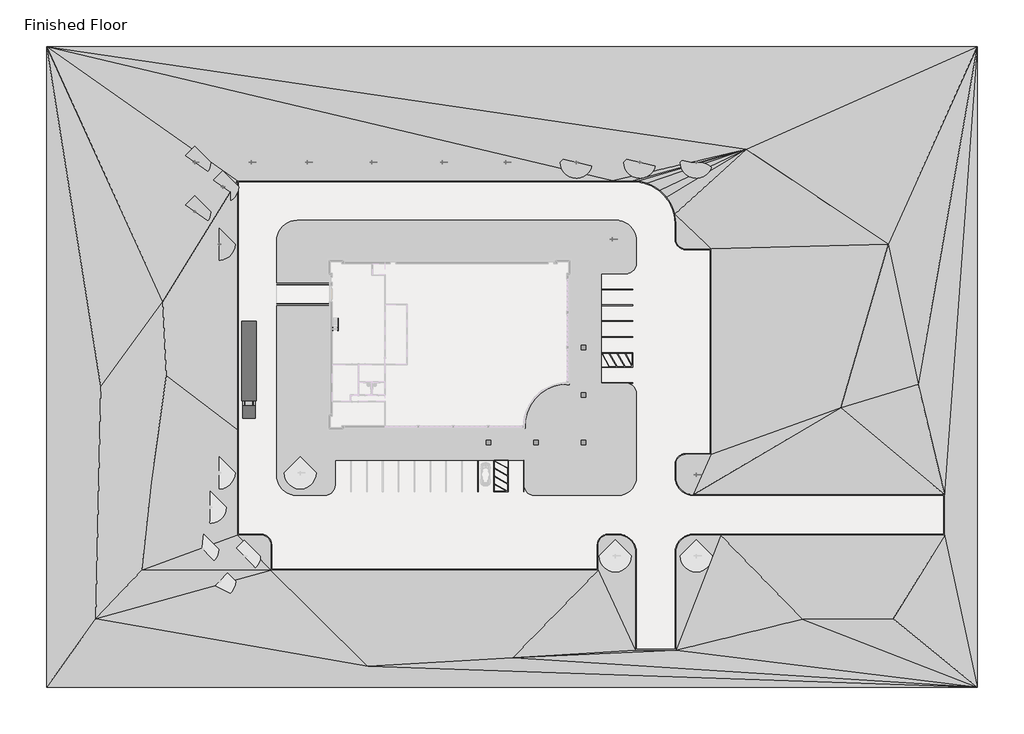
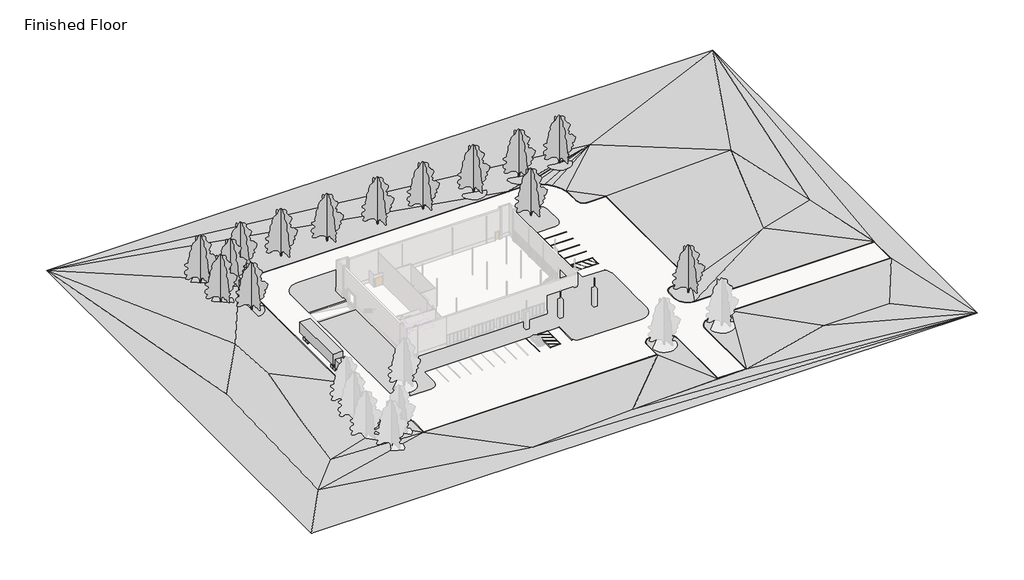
# One storey, part 7 of 7: 14 geographic elements, 12 proxies, 2 members.
"""IFC4 building model written with IfcOpenShell, lengths in millimetres."""

from ifc_helpers import new_model, si_unit, frame, origin, place, context, project, spatial, polyline, outline, extrude, triangles, transform, mapped, element, save
from components import parking_space_ada_44d2459f, parking_space_ada_2abbe88e, parking_space_9_x_18_90_deg_9fe051ab, parking_space_9_x_18_90_deg_b8b21359, semi_truck_semi_truck_f452f70d, rpc_tree_deciduous_lombardy_poplar_40_01077960

model = new_model("IFC4")

# Units and contexts
model_context = context("Model", 3, world=origin())
ifc_project = project(units=[si_unit("LENGTHUNIT", "METRE", prefix="MILLI")], contexts=[model_context])

# Site, building, storey
site = spatial("IfcSite", under=ifc_project)
building = spatial("IfcBuilding", under=site)
storey = spatial("IfcBuildingStorey", under=building, Name="Finished Floor", Elevation=0.0)

# Proxies
placement = place(None, origin())
element("IfcBuildingElementProxy", 1, Name="Building Element Proxy", at=placement, inside=storey, context=model_context, shape_type="Tessellation", body=[
    triangles([(89491.7282227, 51524.5340698, 0.0), (-71468.3585815, 51524.5340698, 0.0), (-71468.3585815, -59233.5425903, 0.0), (89491.7282227, -59233.5425903, 0.0), (43468.1281494, -19005.9189697, 0.0), (39048.5281494, -19005.9189697, 0.0), (38675.4927795, -19047.9501251, 0.0), (38321.1655701, -19171.9344177, 0.0), (38003.3082275, -19371.6559479, 0.0), (37737.8639648, -19637.1013733, 0.0), (37538.1435974, -19954.9563904, 0.0), (37414.1581421, -20309.2835999, 0.0), (37372.1281494, -20682.3189697, 0.0), (37372.1281494, -22924.0542297, 0.0), (37417.9230286, -23447.5129761, 0.0), (37553.9217041, -23955.0657166, 0.0), (37775.9895447, -24431.2924622, 0.0), (38077.3804504, -24861.7220032, 0.0), (38448.9368408, -25233.2783936, 0.0), (38879.3663818, -25534.6669739, 0.0), (39355.5931274, -25756.7371399, 0.0), (39863.1481934, -25892.73349, 0.0), (40386.6046143, -25938.5306946, 0.0), (83820.6046143, -25938.5306946, 0.0), (83820.6046143, -32948.9306946, 0.0), (45127.0268921, -32948.9306946, 0.0), (40386.6046143, -32948.9306946, 0.0), (39863.1481934, -32994.7278992, 0.0), (39355.5931274, -33130.7265747, 0.0), (38879.3663818, -33352.7944153, 0.0), (38448.9368408, -33654.185321, 0.0), (38077.3804504, -34025.739386, 0.0), (37775.9895447, -34456.168927, 0.0), (37553.9217041, -34932.3956726, 0.0), (37417.9230286, -35439.9507385, 0.0), (37372.1281494, -35963.4094849, 0.0), (37372.1281494, -52869.0659546, 0.0), (30361.7281494, -52869.0659546, 0.0), (30361.7281494, -35963.4094849, 0.0), (30315.9309448, -35439.9507385, 0.0), (30179.9322693, -34932.3956726, 0.0), (29957.8644287, -34456.168927, 0.0), (29656.4735229, -34025.739386, 0.0), (29284.919458, -33654.185321, 0.0), (28854.4875916, -33352.7944153, 0.0), (28378.2608459, -33130.7265747, 0.0), (27870.7081055, -32994.7278992, 0.0), (27347.2493591, -32948.9306946, 0.0), (25594.6051758, -32948.9306946, 0.0), (25221.5698059, -32990.9630127, 0.0), (24867.2425964, -33114.9461426, 0.0), (24549.3875793, -33314.6688354, 0.0), (24283.9433167, -33580.1130981, 0.0), (24084.2206238, -33897.9681152, 0.0), (23960.2351685, -34252.2976501, 0.0), (23918.2051758, -34625.3306946, 0.0), (23918.2051758, -39044.93302, 0.0), (-32692.1859009, -39044.93302, 0.0), (-32692.1859009, -34625.3306946, 0.0), (-32734.2158936, -34252.2976501, 0.0), (-32858.2013489, -33897.9681152, 0.0), (-33057.9240417, -33580.1130981, 0.0), (-33323.365979, -33314.6688354, 0.0), (-33641.2233215, -33114.9461426, 0.0), (-33995.550531, -32990.9630127, 0.0), (-34368.5859009, -32948.9306946, 0.0), (-38482.4952576, -32948.9306946, 0.0), (-38482.4952576, -14776.2364471, 0.0), (-38482.4952576, -4392.0205788, 0.0), (-38482.4952576, 14671.8649109, 0.0), (-38482.4952576, 17447.5757172, 0.0), (-38482.4952576, 23900.0318665, 0.0), (-38482.4952576, 28315.8693054, 0.0), (26449.0204651, 28315.8693054, 0.0), (29904.5281494, 28315.8693054, 0.0), (30740.6329285, 28268.914032, 0.0), (30978.0719238, 28228.5723083, 0.0), (31566.2243958, 28128.6411987, 0.0), (32370.9194641, 27896.8111633, 0.0), (33144.597821, 27576.3446777, 0.0), (33877.5298279, 27171.2670776, 0.0), (34560.4997681, 26686.6734009, 0.0), (35184.9174683, 26128.6586243, 0.0), (35742.9322449, 25504.2409241, 0.0), (36227.5259216, 24821.2709839, 0.0), (36632.6011963, 24088.3389771, 0.0), (36953.0700073, 23314.6606201, 0.0), (37184.9000427, 22509.9655518, 0.0), (37325.172876, 21684.3740845, 0.0), (37372.1281494, 20848.2693054, 0.0), (37372.1281494, 18217.7810303, 0.0), (37414.1581421, 17844.7468231, 0.0), (37538.1435974, 17490.4184509, 0.0), (37737.8639648, 17172.5634338, 0.0), (38003.3082275, 16907.1191711, 0.0), (38321.1655701, 16707.3964783, 0.0), (38675.4927795, 16583.4121857, 0.0), (39048.5281494, 16541.3810303, 0.0), (43468.1281494, 16541.3810303, 0.0), (-62923.0848267, -47446.9783081, 914.4), (-62074.4715088, -7331.9966492, 914.4), (-51345.3450073, 7411.9650238, 914.4), (-50761.3108887, -5405.335762, 914.4), (-53401.7450684, -23823.5760681, 914.4), (-55035.4779053, -39044.93302, 914.4), (49498.0019531, 33794.7302307, 609.6), (65819.2894409, -10908.8620422, 609.6), (79218.1692627, -6843.266597, 609.6), (74036.9831909, 17329.8933655, 609.6), (-15938.1725006, -55637.1574585, 304.8), (9174.5690643, -54152.3178589, 304.8), (59166.9931641, -47487.7479126, 304.8), (74941.6954102, -47420.2590088, 304.8)], [[100, 58, 105], [110, 100, 3], [100, 105, 104], [3, 100, 101], [111, 58, 110], [4, 111, 110], [57, 58, 111], [111, 38, 57], [110, 58, 100], [111, 37, 38], [67, 105, 58], [63, 61, 62], [60, 63, 64], [61, 63, 60], [60, 64, 59], [59, 67, 58], [57, 39, 56], [64, 65, 59], [42, 48, 39], [55, 56, 49], [42, 43, 48], [39, 41, 42], [40, 41, 39], [48, 56, 39], [57, 38, 39], [52, 50, 51], [53, 50, 52], [48, 44, 45], [46, 48, 45], [49, 53, 54], [54, 55, 49], [48, 43, 44], [4, 110, 3], [101, 104, 103], [104, 101, 100], [103, 104, 68], [101, 103, 102], [59, 66, 67], [66, 59, 65], [67, 68, 104], [104, 105, 67], [103, 68, 69], [2, 102, 73], [102, 2, 101], [73, 102, 72], [2, 73, 74], [70, 71, 102], [72, 102, 71], [102, 69, 70], [102, 103, 69], [101, 2, 3], [53, 49, 50], [56, 48, 49], [81, 82, 106], [83, 106, 82], [106, 74, 75], [2, 74, 106], [79, 80, 106], [76, 77, 106], [79, 106, 78], [75, 76, 106], [81, 106, 80], [47, 48, 46], [106, 77, 78], [28, 34, 35], [36, 27, 35], [30, 32, 33], [30, 31, 32], [29, 33, 34], [36, 37, 26], [13, 14, 6], [16, 14, 15], [19, 14, 18], [17, 18, 14], [16, 17, 14], [20, 14, 19], [33, 29, 30], [29, 34, 28], [112, 4, 113], [4, 112, 37], [113, 25, 112], [25, 113, 4], [4, 24, 25], [36, 26, 27], [37, 112, 26], [23, 20, 21], [23, 21, 22], [28, 35, 27], [14, 23, 6], [112, 25, 26], [23, 14, 20], [4, 1, 24], [37, 111, 4], [23, 24, 107], [96, 91, 92], [10, 11, 12], [92, 93, 95], [12, 9, 10], [90, 91, 98], [85, 86, 106], [84, 85, 106], [99, 89, 90], [87, 88, 106], [89, 99, 88], [86, 87, 106], [93, 94, 95], [13, 9, 12], [8, 9, 13], [13, 7, 8], [99, 5, 107], [5, 23, 107], [24, 108, 107], [6, 7, 13], [109, 107, 108], [98, 91, 97], [96, 97, 91], [99, 90, 98], [99, 109, 106], [109, 99, 107], [106, 1, 2], [1, 106, 109], [109, 108, 1], [106, 88, 99], [96, 92, 95], [108, 24, 1], [23, 5, 6], [84, 106, 83]], closed=False),
])
element("IfcBuildingElementProxy", 2, Name="Building Element Proxy", at=placement, inside=storey, context=model_context, shape_type="Tessellation", body=[
    triangles([(43468.1281494, -19005.9189697, 0.0), (43468.1281494, 16541.3810303, 0.0), (39048.5281494, 16541.3810303, 0.0), (38675.4927795, 16583.4121857, 0.0), (38321.1655701, 16707.3964783, 0.0), (38003.3082275, 16907.1191711, 0.0), (37737.8639648, 17172.5634338, 0.0), (37538.1435974, 17490.4184509, 0.0), (37414.1581421, 17844.7468231, 0.0), (37372.1281494, 18217.7810303, 0.0), (37372.1281494, 20848.2693054, 0.0), (37325.172876, 21684.3740845, 0.0), (37184.9000427, 22509.9655518, 0.0), (36953.0700073, 23314.6606201, 0.0), (36632.6011963, 24088.3389771, 0.0), (36227.5259216, 24821.2709839, 0.0), (35742.9322449, 25504.2409241, 0.0), (35184.9174683, 26128.6586243, 0.0), (34560.4997681, 26686.6734009, 0.0), (33877.5298279, 27171.2670776, 0.0), (33144.597821, 27576.3446777, 0.0), (32370.9194641, 27896.8111633, 0.0), (31566.2243958, 28128.6411987, 0.0), (30978.0719238, 28228.5723083, 0.0), (30740.6329285, 28268.914032, 0.0), (29904.5281494, 28315.8693054, 0.0), (26449.0204651, 28315.8693054, 0.0), (-38482.4952576, 28315.8693054, 0.0), (-38482.4952576, 23900.0318665, 0.0), (-38482.4952576, 17447.5757172, 0.0), (-38482.4952576, 14671.8649109, 0.0), (-38482.4952576, -4392.0205788, 0.0), (-38482.4952576, -14776.2364471, 0.0), (-38482.4952576, -32948.9306946, 0.0), (-34368.5859009, -32948.9306946, 0.0), (-33995.550531, -32990.9630127, 0.0), (-33641.2233215, -33114.9461426, 0.0), (-33323.365979, -33314.6688354, 0.0), (-33057.9240417, -33580.1130981, 0.0), (-32858.2013489, -33897.9681152, 0.0), (-32734.2158936, -34252.2976501, 0.0), (-32692.1859009, -34625.3306946, 0.0), (-32692.1859009, -39044.93302, 0.0), (23918.2051758, -39044.93302, 0.0), (23918.2051758, -34625.3306946, 0.0), (23960.2351685, -34252.2976501, 0.0), (24084.2206238, -33897.9681152, 0.0), (24283.9433167, -33580.1130981, 0.0), (24549.3875793, -33314.6688354, 0.0), (24867.2425964, -33114.9461426, 0.0), (25221.5698059, -32990.9630127, 0.0), (25594.6051758, -32948.9306946, 0.0), (27347.2493591, -32948.9306946, 0.0), (27870.7081055, -32994.7278992, 0.0), (28378.2608459, -33130.7265747, 0.0), (28854.4875916, -33352.7944153, 0.0), (29284.919458, -33654.185321, 0.0), (29656.4735229, -34025.739386, 0.0), (29957.8644287, -34456.168927, 0.0), (30179.9322693, -34932.3956726, 0.0), (30315.9309448, -35439.9507385, 0.0), (30361.7281494, -35963.4094849, 0.0), (30361.7281494, -52869.0659546, 0.0), (37372.1281494, -52869.0659546, 0.0), (37372.1281494, -35963.4094849, 0.0), (37417.9230286, -35439.9507385, 0.0), (37553.9217041, -34932.3956726, 0.0), (37775.9895447, -34456.168927, 0.0), (38077.3804504, -34025.739386, 0.0), (38448.9368408, -33654.185321, 0.0), (38879.3663818, -33352.7944153, 0.0), (39355.5931274, -33130.7265747, 0.0), (39863.1481934, -32994.7278992, 0.0), (40386.6046143, -32948.9306946, 0.0), (45127.0268921, -32948.9306946, 0.0), (83820.6046143, -32948.9306946, 0.0), (83820.6046143, -25938.5306946, 0.0), (40386.6046143, -25938.5306946, 0.0), (39863.1481934, -25892.73349, 0.0), (39355.5931274, -25756.7371399, 0.0), (38879.3663818, -25534.6669739, 0.0), (38448.9368408, -25233.2783936, 0.0), (38077.3804504, -24861.7220032, 0.0), (37775.9895447, -24431.2924622, 0.0), (37553.9217041, -23955.0657166, 0.0), (37417.9230286, -23447.5129761, 0.0), (37372.1281494, -22924.0542297, 0.0), (37372.1281494, -20682.3189697, 0.0), (37414.1581421, -20309.2835999, 0.0), (37538.1435974, -19954.9563904, 0.0), (37737.8639648, -19637.1013733, 0.0), (38003.3082275, -19371.6559479, 0.0), (38321.1655701, -19171.9344177, 0.0), (38675.4927795, -19047.9501251, 0.0), (39048.5281494, -19005.9189697, 0.0), (40386.6046143, -26090.9306946, 0.0), (40489.6587891, -26090.9306946, 0.0), (82979.4373535, -26090.9306946, 0.0), (83668.2046143, -26090.9306946, 0.0), (83668.2046143, -32796.5306946, 0.0), (45968.189502, -32796.5306946, 0.0), (45023.9727173, -32796.5306946, 0.0), (40386.6046143, -32796.5306946, 0.0), (39874.5242432, -32841.3326111, 0.0), (39863.1481934, -32842.3278992, 0.0), (39836.6800415, -32844.6440369, 0.0), (39366.825, -32970.5410034, 0.0), (39355.5931274, -32973.5501221, 0.0), (39303.4707275, -32987.5167114, 0.0), (38890.1843262, -33180.2351807, 0.0), (38879.3663818, -33185.2790588, 0.0), (38803.1663818, -33220.8117737, 0.0), (38459.1408691, -33461.7017212, 0.0), (38448.9368408, -33468.8477966, 0.0), (38350.9753784, -33537.4389587, 0.0), (38224.7575012, -33663.6591614, 0.0), (37960.6364136, -33927.780249, 0.0), (37892.042926, -34025.739386, 0.0), (37884.899176, -34035.9434143, 0.0), (37644.0092285, -34379.968927, 0.0), (37608.4765137, -34456.168927, 0.0), (37603.4303101, -34466.9891968, 0.0), (37410.7141663, -34880.2732727, 0.0), (37396.7475769, -34932.3956726, 0.0), (37393.7361328, -34943.6298706, 0.0), (37267.8391663, -35413.4872375, 0.0), (37265.5230286, -35439.9507385, 0.0), (37264.5277405, -35451.3291138, 0.0), (37219.7281494, -35963.4094849, 0.0), (37219.7281494, -36330.921936, 0.0), (37219.7281494, -52716.6659546, 0.0), (30514.1281494, -52716.6659546, 0.0), (30514.1281494, -52501.5535034, 0.0), (30514.1281494, -35963.4094849, 0.0), (30513.1444885, -35952.1752869, 0.0), (30468.3309448, -35439.9507385, 0.0), (30467.400769, -35429.3281311, 0.0), (30466.0148071, -35413.4872375, 0.0), (30337.1087219, -34932.3956726, 0.0), (30334.5112061, -34922.7055664, 0.0), (30323.1421326, -34880.2732727, 0.0), (30125.3797852, -34456.168927, 0.0), (30121.3381714, -34447.5043396, 0.0), (30089.8470703, -34379.968927, 0.0), (29841.8110474, -34025.739386, 0.0), (29836.485791, -34018.1328735, 0.0), (29773.2175598, -33927.780249, 0.0), (29763.8274353, -33918.3877991, 0.0), (29396.8079773, -33551.3683411, 0.0), (29392.2710449, -33546.8314087, 0.0), (29382.878595, -33537.4389587, 0.0), (28968.8341003, -33247.5217712, 0.0), (28963.4972168, -33243.78479, 0.0), (28930.6875916, -33220.8117737, 0.0), (28498.6023376, -33019.3263977, 0.0), (28492.5050354, -33016.4847107, 0.0), (28430.3855713, -32987.5167114, 0.0), (28001.5257019, -32872.6051208, 0.0), (27994.667981, -32870.7680237, 0.0), (27897.1716064, -32844.6440369, 0.0), (27495.0728943, -32809.4647888, 0.0), (27487.3896423, -32808.7927368, 0.0), (27347.2493591, -32796.5306946, 0.0), (25773.650061, -32796.5306946, 0.0), (25740.9288025, -32796.5306946, 0.0), (25594.6051758, -32796.5306946, 0.0), (25390.8408691, -32819.4897583, 0.0), (25385.8946594, -32820.0478638, 0.0), (25187.6579224, -32842.3837097, 0.0), (25106.460553, -32870.795929, 0.0), (25100.216748, -32872.9795166, 0.0), (24801.1187256, -32977.6405701, 0.0), (24746.2895142, -33012.0919556, 0.0), (24454.3677979, -33195.5179687, 0.0), (24434.2666992, -33215.6190674, 0.0), (24169.4735596, -33480.4098816, 0.0), (24164.79245, -33485.0933167, 0.0), (23969.122998, -33796.4975647, 0.0), (23946.9127258, -33831.8442444, 0.0), (23923.7746033, -33897.9681152, 0.0), (23811.6558655, -34218.3857666, 0.0), (23807.9421387, -34251.3465454, 0.0), (23807.8351685, -34252.2976501, 0.0), (23765.9167969, -34624.3284302, 0.0), (23765.8051758, -34625.3306946, 0.0), (23765.8051758, -38892.5306946, 0.0), (21966.1220032, -38892.5306946, 0.0), (-32539.7859009, -38892.5306946, 0.0), (-32539.7859009, -34637.2299683, 0.0), (-32539.7859009, -34625.3306946, 0.0), (-32581.701947, -34253.30224, 0.0), (-32581.8158936, -34252.2976501, 0.0), (-32585.6365906, -34218.3857666, 0.0), (-32697.404187, -33898.9703796, 0.0), (-32697.7553284, -33897.9681152, 0.0), (-32720.8934509, -33831.8442444, 0.0), (-32806.1882446, -33696.0990417, 0.0), (-32938.7708496, -33485.0933167, 0.0), (-33013.110498, -33410.7536682, 0.0), (-33144.7582764, -33279.1082153, 0.0), (-33228.3461975, -33195.5179687, 0.0), (-33383.6902039, -33097.9099731, 0.0), (-33575.0994507, -32977.6405701, 0.0), (-33687.8902405, -32938.1732117, 0.0), (-33961.6386475, -32842.3837097, 0.0), (-34034.1644531, -32834.2121155, 0.0), (-34368.5859009, -32796.5306946, 0.0), (-34403.0861206, -32796.5306946, 0.0), (-38330.0952576, -32796.5306946, 0.0), (-38330.0952576, -15449.4453552, 0.0), (-38330.0952576, -15394.9044983, 0.0), (-38330.0952576, -15353.5267914, 0.0), (-38330.0952576, -15323.8599976, 0.0), (-38330.0952576, -15304.5204803, 0.0), (-38330.0952576, -14570.8373566, 0.0), (-38330.0952576, -4284.5230705, 0.0), (-38330.0952576, -4138.6438934, 0.0), (-38330.0952576, 14501.5997223, 0.0), (-38330.0952576, 14576.1068024, 0.0), (-38330.0952576, 17290.1341644, 0.0), (-38330.0952576, 23599.203717, 0.0), (-38330.0952576, 23772.4024475, 0.0), (-38330.0952576, 28146.6075439, 0.0), (-38330.0952576, 28163.4693054, 0.0), (26035.0503845, 28163.4693054, 0.0), (26100.1929199, 28163.4693054, 0.0), (26605.1318665, 28163.4693054, 0.0), (26608.6107239, 28163.4693054, 0.0), (26613.8708679, 28163.4693054, 0.0), (29904.5281494, 28163.4693054, 0.0), (30022.1116699, 28156.8650574, 0.0), (30065.9950378, 28154.4000916, 0.0), (30723.5688538, 28117.472113, 0.0), (31134.8693298, 28047.590332, 0.0), (31157.2981934, 28043.7789368, 0.0), (31183.4663635, 28039.3326965, 0.0), (31214.6063232, 28034.0423218, 0.0), (31252.5574951, 28027.5938782, 0.0), (31300.1708679, 28019.5036743, 0.0), (31362.1484802, 28008.9740845, 0.0), (31446.824707, 27994.5865906, 0.0), (31532.3125122, 27980.0618958, 0.0), (31602.3128906, 27959.8956848, 0.0), (32138.4034241, 27805.4492981, 0.0), (32320.5853271, 27752.9641296, 0.0), (32602.037915, 27636.3828735, 0.0), (33078.4739502, 27439.0367798, 0.0), (33796.4487305, 27042.2261169, 0.0), (33892.1010315, 26974.3558411, 0.0), (34465.4799866, 26567.5225342, 0.0), (34667.6257874, 26386.8730957, 0.0), (35077.1542786, 26020.8954346, 0.0), (35325.6600403, 25742.8170593, 0.0), (35623.7813782, 25409.2211426, 0.0), (35881.6726135, 25045.7549561, 0.0), (36098.4849609, 24740.1898865, 0.0), (36340.5748352, 24302.1608093, 0.0), (36495.2956238, 24022.2151062, 0.0), (36703.2829285, 23520.0899414, 0.0), (36809.2229736, 23264.3264832, 0.0), (36969.3318054, 22708.5766846, 0.0), (37036.3207397, 22476.0536682, 0.0), (37138.0517395, 21877.3064941, 0.0), (37173.730957, 21667.3123352, 0.0), (37209.163678, 21036.3694519, 0.0), (37210.6589355, 21009.7361938, 0.0), (37219.7281494, 20848.2693054, 0.0), (37219.7281494, 18423.8649628, 0.0), (37219.7281494, 18358.670105, 0.0), (37219.7281494, 18217.7810303, 0.0), (37243.3825195, 18007.8275665, 0.0), (37265.5788391, 17810.8349396, 0.0), (37294.4561462, 17728.3120697, 0.0), (37386.9598022, 17463.9468109, 0.0), (37400.8356995, 17424.2945801, 0.0), (37576.1994141, 17145.2058014, 0.0), (37618.7130981, 17077.5424896, 0.0), (37737.8639648, 16958.3916229, 0.0), (37908.288446, 16787.9683044, 0.0), (38002.0152832, 16729.0753876, 0.0), (38003.3082275, 16728.2626465, 0.0), (38255.0416992, 16570.089743, 0.0), (38319.7563538, 16547.4446136, 0.0), (38321.1655701, 16546.9516205, 0.0), (38322.7608215, 16546.393515, 0.0), (38641.580896, 16434.8328827, 0.0), (38675.4927795, 16431.0121857, 0.0), (38677.0926819, 16430.8319641, 0.0), (39048.5281494, 16388.9810303, 0.0), (39067.4758301, 16388.9810303, 0.0), (43315.7281494, 16388.9810303, 0.0), (43315.7281494, -17780.1496033, 0.0), (43315.7281494, -18853.5189697, 0.0), (39048.5281494, -18853.5189697, 0.0), (39046.9328979, -18853.6980286, 0.0), (38675.4927795, -18895.5501251, 0.0), (38673.9835693, -18895.7198822, 0.0), (38641.580896, -18899.3708221, 0.0), (38321.1655701, -19011.4895599, 0.0), (38255.0416992, -19034.6265198, 0.0), (38004.8941772, -19191.8052979, 0.0), (38003.3082275, -19192.8005859, 0.0), (37908.288446, -19252.5050812, 0.0), (37739.431311, -19421.3622162, 0.0), (37737.8639648, -19422.9295624, 0.0), (37618.7130981, -19542.0815918, 0.0), (37598.0027344, -19575.0423706, 0.0), (37400.8356995, -19888.8325195, 0.0), (37399.5450806, -19892.5183411, 0.0), (37286.0985168, -20216.7287842, 0.0), (37265.5788391, -20275.3717163, 0.0), (37241.9546997, -20485.0379883, 0.0), (37241.5268188, -20488.8400818, 0.0), (37219.7281494, -20682.3189697, 0.0), (37219.7281494, -20836.7025696, 0.0), (37219.7281494, -20841.0464905, 0.0), (37219.7281494, -22924.0542297, 0.0), (37230.2902954, -23044.7840698, 0.0), (37231.9878662, -23064.1921875, 0.0), (37267.8391663, -23473.9764771, 0.0), (37292.4655701, -23565.8801697, 0.0), (37293.9631531, -23571.4728516, 0.0), (37410.7141663, -24007.1904419, 0.0), (37437.2125488, -24064.0195312, 0.0), (37439.6798401, -24069.3075806, 0.0), (37644.0092285, -24507.4924622, 0.0), (37663.5405945, -24535.3861084, 0.0), (37666.9822449, -24540.3020874, 0.0), (37960.6364136, -24959.6834656, 0.0), (37965.591925, -24964.6413025, 0.0), (37970.0288635, -24969.0759155, 0.0), (38337.0459961, -25336.0930481, 0.0), (38341.5829285, -25340.6299805, 0.0), (38350.9753784, -25350.0224304, 0.0), (38448.9368408, -25418.615918, 0.0), (38803.1663818, -25666.6496155, 0.0), (38870.699469, -25698.1407166, 0.0), (38879.3663818, -25702.1823303, 0.0), (39303.4707275, -25899.9446777, 0.0), (39345.9006958, -25911.3160767, 0.0), (39355.5931274, -25913.9112671, 0.0), (39836.6800415, -26042.8196777, 0.0), (39852.5255859, -26044.2056396, 0.0), (39863.1481934, -26045.13349, 0.0), (40375.3727417, -26089.9493591, 0.0), (-22521.0718506, 7009.9285172, 0.0), (-31624.4952576, 7009.9285172, 0.0), (-31624.4952576, 445.3687818, 0.0), (-31624.4952576, -5533.2413269, 0.0), (-31624.4952576, -23117.5447449, 0.0), (-31498.079718, -23654.7514893, 0.0), (-31288.9110901, -24165.4598511, 0.0), (-31002.1774292, -24637.0078125, 0.0), (-30765.3872314, -24915.8954407, 0.0), (-30644.9829529, -25057.7053894, 0.0), (-30592.109436, -25103.0816895, 0.0), (-30226.18526, -25417.1229858, 0.0), (-29756.1651123, -25706.3518433, 0.0), (-29246.5729614, -25918.2249573, 0.0), (-28710.0429199, -26047.4845093, 0.0), (-28159.8718506, -26090.9306946, 0.0), (-23395.7859009, -26090.9306946, 0.0), (-22988.8386475, -26045.0800049, 0.0), (-22602.2994507, -25909.8231445, 0.0), (-22255.5461975, -25691.9457458, 0.0), (-21965.9708496, -25402.3703979, 0.0), (-21748.0934509, -25055.6171448, 0.0), (-21612.8365906, -24669.077948, 0.0), (-21566.9859009, -24262.1306946, 0.0), (-21566.9859009, -19994.9306946, 0.0), (8313.9152023, -19994.9306946, 0.0), (8686.6657059, -19994.9306946, 0.0), (9068.5226303, -19994.9306946, 0.0), (9438.6721298, -19994.9306946, 0.0), (11084.7152618, -19994.9306946, 0.0), (11084.7152618, -21394.6778137, 0.0), (11084.7152618, -21729.6620178, 0.0), (11084.7152618, -22083.6241333, 0.0), (11084.7152618, -22437.656012, 0.0), (11084.7152618, -24262.1306946, 0.0), (11130.5671143, -24669.077948, 0.0), (11265.8228119, -25055.6171448, 0.0), (11483.7013733, -25402.3703979, 0.0), (11773.2767212, -25691.9457458, 0.0), (12120.0276489, -25909.8231445, 0.0), (12506.5680084, -26045.0800049, 0.0), (12913.5152618, -26090.9306946, 0.0), (15228.6472046, -26090.9306946, 0.0), (15685.5414093, -26090.9306946, 0.0), (16153.5977234, -26090.9306946, 0.0), (16607.3037506, -26090.9306946, 0.0), (27347.2493591, -26090.9306946, 0.0), (27897.1716064, -26042.8196777, 0.0), (28430.3855713, -25899.9446777, 0.0), (28930.6875916, -25666.6496155, 0.0), (29382.878595, -25350.0224304, 0.0), (29773.2175598, -24959.6834656, 0.0), (30089.8470703, -24507.4924622, 0.0), (30323.1421326, -24007.1904419, 0.0), (30466.0148071, -23473.9764771, 0.0), (30514.1281494, -22924.0542297, 0.0), (30514.1281494, -16790.6658142, 0.0), (30514.1281494, -16431.8923645, 0.0), (30514.1281494, -8490.3189697, 0.0), (30468.2751343, -8083.3722977, 0.0), (30333.0182739, -7696.8319382, 0.0), (30115.1408752, -7350.0804291, 0.0), (29825.5655273, -7060.5056625, 0.0), (29478.8145996, -6842.6271011, 0.0), (29092.2730774, -6707.3708221, 0.0), (28685.3281494, -6661.5189697, 0.0), (24418.1281494, -6661.5189697, 0.0), (24418.1281494, 12274.1810303, 0.0), (28685.3281494, 12274.1810303, 0.0), (29092.2730774, 12320.0328827, 0.0), (29478.8145996, 12455.289743, 0.0), (29825.5655273, 12673.1683044, 0.0), (30115.1408752, 12962.7424896, 0.0), (30333.0182739, 13309.4945801, 0.0), (30468.2751343, 13696.0349396, 0.0), (30514.1281494, 14102.9810303, 0.0), (30514.1281494, 15950.1613037, 0.0), (30514.1281494, 16260.548172, 0.0), (30514.1281494, 17952.6681427, 0.0), (30470.972644, 18501.0032776, 0.0), (30342.5711792, 19035.8345856, 0.0), (30132.0840271, 19543.9954285, 0.0), (29844.6945923, 20012.9737793, 0.0), (29487.4768616, 20431.220343, 0.0), (29069.2326233, 20788.4357483, 0.0), (28600.2542725, 21075.8251831, 0.0), (28092.0945923, 21286.3123352, 0.0), (27557.2621216, 21414.7138, 0.0), (27008.9281494, 21457.8693054, 0.0), (10751.8320923, 21457.8693054, 0.0), (7820.3371902, 21457.8693054, 0.0), (-28159.8718506, 21457.8693054, 0.0), (-28710.0429199, 21414.4231201, 0.0), (-29246.5729614, 21285.1612427, 0.0), (-29756.1651123, 21073.2904541, 0.0), (-30226.18526, 20784.0615967, 0.0), (-30644.9829529, 20424.6416748, 0.0), (-31000.4496277, 20005.9788574, 0.0), (-31002.1774292, 20003.9440979, 0.0), (-31288.9110901, 19532.3984619, 0.0), (-31498.079718, 19021.6889374, 0.0), (-31624.4952576, 18484.4810303, 0.0), (-31624.4952576, 18156.6975494, 0.0), (-31624.4952576, 10362.7290985, 0.0), (-22521.0718506, 10362.7290985, 0.0), (-22521.0718506, 10532.9012695, 0.0), (-22521.0718506, 10588.4118347, 0.0), (-22521.0718506, 11856.6681427, 0.0), (-22825.8718506, 11856.6681427, 0.0), (-22825.8718506, 14752.2681427, 0.0), (-19930.2718506, 14752.2681427, 0.0), (-19930.2718506, 14447.4681427, 0.0), (-11222.3161652, 14447.4681427, 0.0), (-5294.182663, 14447.4681427, 0.0), (16340.9269867, 14447.4681427, 0.0), (16340.9269867, 14752.2681427, 0.0), (19236.5269867, 14752.2681427, 0.0), (19236.5269867, 14285.8966095, 0.0), (19236.5269867, 14041.7661621, 0.0), (19236.5269867, 11856.6681427, 0.0), (18931.7269867, 11856.6681427, 0.0), (18931.7269867, -6675.4733505, 0.0), (18097.4139587, -6671.306163, 0.0), (17267.9448212, -6761.1704453, 0.0), (16453.8828827, -6943.9214996, 0.0), (15665.5949524, -7217.2321426, 0.0), (14913.1234406, -7577.6211914, 0.0), (14206.0491577, -8020.4993912, 0.0), (13553.3773682, -8540.2258072, 0.0), (13299.7951721, -8793.8080032, 0.0), (13133.0425598, -8960.5606155, 0.0), (12963.4215179, -9130.1816574, 0.0), (12443.6951019, -9782.8528656, 0.0), (12000.8174835, -10489.9271484, 0.0), (11640.4278534, -11242.399823, 0.0), (11367.1177917, -12030.6865906, 0.0), (11184.366156, -12844.7485291, 0.0), (11094.5018738, -13674.2188293, 0.0), (11098.6690613, -14508.5318573, 0.0), (2986.9037292, -14508.5318573, 0.0), (2691.9551628, -14508.5318573, 0.0), (2387.6770786, -14508.5318573, 0.0), (2090.6561096, -14508.5318573, 0.0), (-19930.2718506, -14508.5318573, 0.0), (-19930.2718506, -14813.3318573, 0.0), (-22825.8718506, -14813.3318573, 0.0), (-22825.8718506, -11917.7318573, 0.0), (-22521.0718506, -11917.7318573, 0.0), (-22521.0718506, 6221.2923523, 0.0), (-22521.0718506, 6241.971904, 0.0), (-22521.0718506, 6736.0620941, 0.0), (-22521.0718506, 6866.5983124, 0.0)], [[202, 37, 38], [201, 38, 200], [202, 38, 201], [39, 198, 199], [198, 39, 197], [199, 200, 39], [39, 200, 38], [34, 35, 209], [206, 35, 36], [36, 205, 206], [207, 35, 206], [204, 36, 37], [205, 36, 204], [203, 204, 37], [203, 37, 202], [43, 188, 42], [188, 43, 187], [42, 191, 41], [190, 191, 42], [42, 188, 189], [189, 190, 42], [43, 44, 187], [196, 40, 195], [196, 197, 40], [40, 41, 194], [40, 197, 39], [193, 194, 41], [195, 40, 194], [41, 192, 193], [41, 191, 192], [208, 209, 35], [207, 208, 35], [354, 361, 350], [362, 363, 369], [361, 354, 360], [355, 356, 354], [360, 354, 359], [354, 356, 357], [353, 354, 352], [361, 362, 370], [358, 359, 354], [357, 358, 354], [364, 369, 363], [34, 209, 210], [385, 386, 382], [381, 386, 387], [380, 381, 387], [389, 377, 388], [388, 379, 387], [390, 376, 389], [366, 367, 369], [368, 369, 367], [366, 369, 365], [384, 385, 383], [383, 385, 382], [386, 381, 382], [376, 390, 391], [365, 369, 364], [369, 370, 362], [184, 45, 183], [184, 185, 45], [45, 185, 186], [46, 183, 45], [182, 46, 181], [182, 183, 46], [45, 186, 44], [186, 187, 44], [47, 179, 180], [47, 178, 179], [181, 46, 180], [48, 177, 178], [176, 177, 48], [48, 175, 176], [48, 178, 47], [46, 47, 180], [57, 58, 149], [149, 150, 57], [58, 148, 149], [57, 150, 151], [147, 58, 146], [148, 58, 147], [146, 58, 145], [145, 58, 59], [173, 174, 49], [174, 175, 49], [49, 175, 48], [152, 56, 57], [153, 154, 56], [152, 153, 56], [151, 152, 57], [154, 155, 56], [173, 50, 172], [50, 173, 49], [172, 50, 171], [170, 51, 169], [170, 171, 51], [51, 52, 167], [51, 171, 50], [164, 52, 53], [167, 168, 51], [166, 167, 52], [169, 51, 168], [166, 52, 165], [165, 52, 164], [164, 53, 163], [161, 53, 54], [158, 159, 54], [54, 55, 158], [160, 54, 159], [55, 155, 156], [155, 55, 56], [156, 157, 55], [55, 157, 158], [161, 162, 53], [161, 54, 160], [395, 396, 393], [392, 396, 397], [393, 394, 395], [396, 392, 393], [162, 163, 53], [391, 402, 484], [398, 392, 397], [133, 62, 63], [391, 392, 402], [33, 210, 211], [210, 33, 34], [33, 211, 212], [213, 214, 33], [214, 215, 33], [212, 213, 33], [32, 215, 216], [215, 32, 33], [216, 217, 32], [31, 32, 217], [348, 349, 494], [348, 494, 347], [491, 349, 350], [350, 370, 491], [492, 349, 491], [350, 351, 354], [490, 370, 488], [488, 489, 490], [490, 491, 370], [361, 370, 350], [497, 346, 347], [454, 449, 450], [494, 349, 492], [495, 496, 347], [496, 497, 347], [494, 495, 347], [492, 493, 494], [354, 351, 352], [454, 450, 451], [30, 31, 220], [220, 31, 219], [218, 219, 31], [447, 448, 446], [31, 217, 218], [29, 223, 28], [223, 29, 222], [224, 28, 223], [445, 446, 448], [221, 222, 29], [221, 30, 220], [29, 30, 221], [448, 443, 445], [452, 453, 454], [437, 448, 455], [448, 449, 455], [456, 458, 437], [456, 457, 458], [437, 458, 436], [455, 456, 437], [448, 441, 442], [442, 443, 448], [444, 445, 443], [448, 440, 441], [448, 439, 440], [438, 439, 448], [438, 448, 437], [454, 455, 449], [451, 452, 454], [459, 436, 458], [371, 487, 488], [371, 372, 484], [377, 378, 388], [376, 377, 389], [375, 376, 391], [379, 388, 378], [371, 486, 487], [373, 484, 372], [486, 371, 485], [484, 485, 371], [374, 375, 484], [483, 484, 475], [467, 475, 484], [484, 373, 374], [380, 387, 379], [371, 488, 370], [480, 481, 475], [476, 479, 480], [475, 481, 482], [477, 478, 476], [476, 478, 479], [480, 475, 476], [483, 475, 482], [472, 473, 475], [471, 472, 475], [474, 475, 473], [475, 470, 471], [475, 469, 470], [409, 405, 408], [403, 412, 467], [468, 469, 475], [484, 375, 391], [412, 404, 411], [467, 468, 475], [466, 467, 465], [465, 412, 413], [412, 465, 467], [464, 413, 463], [413, 464, 465], [434, 462, 413], [403, 467, 484], [460, 461, 435], [435, 436, 460], [461, 462, 435], [459, 460, 436], [463, 413, 462], [225, 226, 27], [462, 434, 435], [225, 27, 28], [404, 410, 411], [434, 429, 430], [428, 429, 434], [413, 423, 434], [416, 417, 414], [418, 414, 417], [414, 422, 413], [414, 415, 416], [227, 228, 27], [27, 229, 26], [229, 27, 228], [27, 226, 227], [431, 432, 434], [433, 434, 432], [431, 434, 430], [404, 409, 410], [28, 224, 225], [61, 62, 136], [134, 135, 62], [136, 62, 135], [62, 133, 134], [63, 132, 133], [61, 136, 137], [60, 141, 142], [141, 60, 140], [59, 142, 143], [142, 59, 60], [139, 60, 61], [140, 60, 139], [138, 139, 61], [61, 137, 138], [132, 63, 131], [129, 130, 65], [131, 64, 130], [65, 128, 129], [128, 66, 127], [66, 128, 65], [65, 130, 64], [63, 64, 131], [126, 66, 125], [67, 124, 125], [126, 127, 66], [123, 67, 122], [67, 123, 124], [68, 121, 122], [68, 122, 67], [67, 125, 66], [143, 144, 59], [400, 392, 399], [87, 317, 318], [400, 401, 392], [313, 314, 88], [314, 315, 88], [316, 317, 87], [313, 88, 312], [311, 312, 89], [316, 88, 315], [87, 318, 319], [401, 402, 392], [322, 323, 85], [86, 320, 321], [321, 322, 86], [85, 325, 84], [324, 85, 323], [85, 324, 325], [85, 86, 322], [310, 311, 89], [89, 312, 88], [90, 309, 310], [316, 87, 88], [90, 310, 89], [307, 308, 90], [308, 309, 90], [319, 86, 87], [84, 325, 326], [319, 320, 86], [392, 398, 399], [120, 68, 119], [68, 120, 121], [119, 68, 69], [118, 69, 117], [69, 118, 119], [116, 117, 69], [69, 70, 116], [115, 70, 114], [70, 115, 116], [113, 114, 70], [70, 71, 113], [112, 71, 111], [71, 112, 113], [110, 111, 71], [71, 72, 110], [109, 72, 108], [72, 109, 110], [107, 108, 72], [72, 73, 107], [102, 74, 75], [107, 73, 106], [104, 73, 74], [104, 105, 73], [103, 104, 74], [106, 73, 105], [102, 75, 101], [99, 100, 77], [102, 103, 74], [76, 100, 101], [100, 76, 77], [101, 75, 76], [333, 334, 82], [332, 333, 82], [81, 335, 336], [81, 82, 335], [335, 82, 334], [332, 82, 83], [327, 328, 84], [328, 83, 84], [84, 326, 327], [330, 331, 83], [329, 83, 328], [83, 329, 330], [331, 332, 83], [81, 336, 337], [344, 79, 343], [343, 79, 342], [78, 344, 345], [97, 98, 78], [96, 78, 345], [97, 78, 96], [98, 99, 77], [78, 98, 77], [80, 338, 339], [80, 81, 338], [338, 81, 337], [339, 340, 80], [342, 79, 341], [79, 344, 78], [79, 80, 341], [341, 80, 340], [91, 307, 90], [407, 408, 406], [419, 414, 418], [409, 404, 405], [408, 405, 406], [403, 404, 412], [402, 403, 484], [426, 427, 434], [422, 423, 413], [428, 434, 427], [420, 414, 419], [414, 421, 422], [434, 423, 424], [426, 434, 425], [421, 414, 420], [425, 434, 424], [258, 15, 257], [259, 15, 258], [260, 261, 14], [259, 14, 15], [14, 259, 260], [261, 13, 14], [254, 17, 253], [17, 254, 255], [18, 252, 253], [253, 17, 18], [256, 257, 16], [255, 16, 17], [16, 255, 256], [257, 15, 16], [24, 236, 237], [24, 235, 236], [23, 238, 239], [23, 24, 238], [237, 238, 24], [240, 23, 239], [231, 232, 26], [26, 229, 230], [26, 230, 231], [232, 25, 26], [233, 234, 24], [24, 25, 233], [234, 235, 24], [233, 25, 232], [240, 241, 23], [248, 249, 20], [247, 20, 21], [20, 247, 248], [249, 19, 20], [251, 18, 19], [250, 19, 249], [19, 250, 251], [243, 244, 23], [242, 23, 241], [23, 242, 243], [244, 22, 23], [246, 21, 22], [21, 246, 247], [245, 22, 244], [22, 245, 246], [252, 18, 251], [91, 305, 306], [306, 307, 91], [304, 92, 303], [304, 305, 91], [302, 303, 92], [92, 301, 302], [91, 92, 304], [301, 93, 300], [93, 301, 92], [299, 300, 93], [299, 94, 298], [285, 5, 284], [4, 285, 286], [299, 93, 94], [297, 94, 296], [94, 297, 298], [95, 295, 296], [296, 94, 95], [95, 1, 293], [293, 294, 95], [1, 292, 293], [95, 294, 295], [288, 289, 3], [286, 287, 4], [288, 4, 287], [289, 290, 3], [2, 3, 291], [2, 291, 292], [291, 3, 290], [4, 288, 3], [2, 292, 1], [269, 270, 10], [11, 267, 268], [269, 10, 268], [9, 271, 272], [271, 10, 270], [9, 10, 271], [272, 273, 9], [11, 268, 10], [13, 263, 12], [262, 13, 261], [13, 262, 263], [263, 264, 12], [266, 11, 265], [11, 266, 267], [265, 12, 264], [12, 265, 11], [280, 281, 6], [279, 6, 278], [6, 279, 280], [281, 5, 6], [282, 283, 5], [5, 283, 284], [285, 4, 5], [282, 5, 281], [274, 275, 8], [9, 273, 8], [275, 276, 8], [8, 273, 274], [277, 278, 7], [276, 7, 8], [7, 276, 277], [278, 6, 7], [59, 144, 145]], closed=False),
])
parking_space_ada_shape = parking_space_ada_44d2459f(model_context)
element("IfcBuildingElementProxy", 3, Name="Parking Space - ADA : 9' x 18' (8' Aisle)", ObjectType="Parking Space - ADA : 9' x 18' (8' Aisle)", at=placement, inside=storey, context=model_context, shape_type="MappedRepresentation", body=[
    mapped(parking_space_ada_shape, transform((25277.3525664, -7888.3808535, -101.6), x_axis=(0.0, 1.0, 0.0), y_axis=(-1.0, 0.0, 0.0), z_axis=(0.0, 0.0, 1.0))),
])
parking_space_ada_2_shape = parking_space_ada_2abbe88e(model_context)
element("IfcBuildingElementProxy", 4, Name="Parking Space - ADA : 9' x 18' (8' Aisle)", ObjectType="Parking Space - ADA : 9' x 18' (8' Aisle)", at=placement, inside=storey, context=model_context, shape_type="MappedRepresentation", body=[
    mapped(parking_space_ada_2_shape, transform((12311.5767758, -20854.1566441, 0.0), x_axis=(-1.0, 0.0, 0.0), y_axis=(0.0, -1.0, 0.0), z_axis=(0.0, 0.0, 1.0))),
])
parking_space_9_x_18_90_deg_shape = parking_space_9_x_18_90_deg_9fe051ab(model_context)
element("IfcBuildingElementProxy", 5, Name="Parking Space : 9' x 18' - 90 deg", ObjectType="Parking Space : 9' x 18' - 90 deg", at=placement, inside=storey, context=model_context, shape_type="MappedRepresentation", body=[
    mapped(parking_space_9_x_18_90_deg_shape, transform((5865.0147279, -19994.9313057, -101.6), x_axis=(-1.0, 0.0, 0.0), y_axis=(0.0, -1.0, 0.0), z_axis=(0.0, 0.0, 1.0))),
])
element("IfcBuildingElementProxy", 6, Name="Parking Space : 9' x 18' - 90 deg", ObjectType="Parking Space : 9' x 18' - 90 deg", at=placement, inside=storey, context=model_context, shape_type="MappedRepresentation", body=[
    mapped(parking_space_9_x_18_90_deg_shape, transform((3121.8147279, -19994.9313057, -101.6), x_axis=(-1.0, 0.0, 0.0), y_axis=(0.0, -1.0, 0.0), z_axis=(0.0, 0.0, 1.0))),
])
parking_space_9_x_18_90_deg_2_shape = parking_space_9_x_18_90_deg_b8b21359(model_context)
element("IfcBuildingElementProxy", 7, Name="Parking Space : 9' x 18' - 90 deg", ObjectType="Parking Space : 9' x 18' - 90 deg", at=placement, inside=storey, context=model_context, shape_type="MappedRepresentation", body=[
    mapped(parking_space_9_x_18_90_deg_2_shape, transform((24418.1272279, -1441.8188057, -101.6), x_axis=(0.0, 1.0, 0.0), y_axis=(-1.0, 0.0, 0.0), z_axis=(0.0, 0.0, 1.0))),
])
element("IfcBuildingElementProxy", 8, Name="Parking Space : 9' x 18' - 90 deg", ObjectType="Parking Space : 9' x 18' - 90 deg", at=placement, inside=storey, context=model_context, shape_type="MappedRepresentation", body=[
    mapped(parking_space_9_x_18_90_deg_2_shape, transform((24418.1272279, 1301.3811943, -101.6), x_axis=(0.0, 1.0, 0.0), y_axis=(-1.0, 0.0, 0.0), z_axis=(0.0, 0.0, 1.0))),
])
element("IfcBuildingElementProxy", 9, Name="Parking Space : 9' x 18' - 90 deg", ObjectType="Parking Space : 9' x 18' - 90 deg", at=placement, inside=storey, context=model_context, shape_type="MappedRepresentation", body=[
    mapped(parking_space_9_x_18_90_deg_2_shape, transform((24418.1272279, 4044.5811943, -101.6), x_axis=(0.0, 1.0, 0.0), y_axis=(-1.0, 0.0, 0.0), z_axis=(0.0, 0.0, 1.0))),
])
element("IfcBuildingElementProxy", 10, Name="Parking Space : 9' x 18' - 90 deg", ObjectType="Parking Space : 9' x 18' - 90 deg", at=placement, inside=storey, context=model_context, shape_type="MappedRepresentation", body=[
    mapped(parking_space_9_x_18_90_deg_2_shape, transform((24418.1272279, 6787.7811943, -101.6), x_axis=(0.0, 1.0, 0.0), y_axis=(-1.0, 0.0, 0.0), z_axis=(0.0, 0.0, 1.0))),
])
element("IfcBuildingElementProxy", 11, Name="Parking Space : 9' x 18' - 90 deg", ObjectType="Parking Space : 9' x 18' - 90 deg", at=placement, inside=storey, context=model_context, shape_type="MappedRepresentation", body=[
    mapped(parking_space_9_x_18_90_deg_2_shape, transform((24418.1272279, 9530.9811943, -101.6), x_axis=(0.0, 1.0, 0.0), y_axis=(-1.0, 0.0, 0.0), z_axis=(0.0, 0.0, 1.0))),
])
semi_truck_semi_truck_shape = semi_truck_semi_truck_f452f70d(model_context)
element("IfcBuildingElementProxy", 12, Name="Semi Truck : Semi Truck", ObjectType="Semi Truck : Semi Truck", at=placement, inside=storey, context=model_context, shape_type="MappedRepresentation", body=[
    mapped(semi_truck_semi_truck_shape, transform((-37686.4602721, 4009.6561943, -101.6), x_axis=(0.0, -1.0000000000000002, 0.0), y_axis=(1.0000000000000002, 0.0, 0.0), z_axis=(0.0, 0.0, 1.0))),
])

# Geographic elements
rpc_tree_deciduous_lombardy_poplar_40_shape = rpc_tree_deciduous_lombardy_poplar_40_01077960(model_context)
element("IfcGeographicElement", 13, ObjectType="RPC Tree - Deciduous : Lombardy Poplar - 40'", at=placement, inside=storey, context=model_context, shape_type="MappedRepresentation", body=[
    mapped(rpc_tree_deciduous_lombardy_poplar_40_shape, transform((26324.7147279, 18182.8561943, 0.0), x_axis=(1.0, 0.0, 0.0), y_axis=(0.0, 1.0, 0.0), z_axis=(0.0, 0.0, 1.0))),
])
element("IfcGeographicElement", 14, ObjectType="RPC Tree - Deciduous : Lombardy Poplar - 40'", at=placement, inside=storey, context=model_context, shape_type="MappedRepresentation", body=[
    mapped(rpc_tree_deciduous_lombardy_poplar_40_shape, transform((40858.962333, -22534.9313057, 0.0), x_axis=(1.0, 0.0, 0.0), y_axis=(0.0, 1.0, 0.0), z_axis=(0.0, 0.0, 1.0))),
])
element("IfcGeographicElement", 15, ObjectType="RPC Tree - Deciduous : Lombardy Poplar - 40'", at=placement, inside=storey, context=model_context, shape_type="MappedRepresentation", body=[
    mapped(rpc_tree_deciduous_lombardy_poplar_40_shape, transform((40858.962333, 31516.2286529, 356.0848749), x_axis=(1.0, 0.0, 0.0), y_axis=(0.0, 1.0, 0.0), z_axis=(0.0, 0.0, 1.0))),
])
element("IfcGeographicElement", 16, ObjectType="RPC Tree - Deciduous : Lombardy Poplar - 40'", at=placement, inside=storey, context=model_context, shape_type="MappedRepresentation", body=[
    mapped(rpc_tree_deciduous_lombardy_poplar_40_shape, transform((31105.362333, 31516.2286529, 239.7853259), x_axis=(1.0, 0.0, 0.0), y_axis=(0.0, 1.0, 0.0), z_axis=(0.0, 0.0, 1.0))),
])
element("IfcGeographicElement", 17, ObjectType="RPC Tree - Deciduous : Lombardy Poplar - 40'", at=placement, inside=storey, context=model_context, shape_type="MappedRepresentation", body=[
    mapped(rpc_tree_deciduous_lombardy_poplar_40_shape, transform((20132.562333, 31516.2286529, 94.8893909), x_axis=(1.0, 0.0, 0.0), y_axis=(0.0, 1.0, 0.0), z_axis=(0.0, 0.0, 1.0))),
])
element("IfcGeographicElement", 18, ObjectType="RPC Tree - Deciduous : Lombardy Poplar - 40'", at=placement, inside=storey, context=model_context, shape_type="MappedRepresentation", body=[
    mapped(rpc_tree_deciduous_lombardy_poplar_40_shape, transform((7937.387333, 31516.2286529, 0.0), x_axis=(1.0, 0.0, 0.0), y_axis=(0.0, 1.0, 0.0), z_axis=(0.0, 0.0, 1.0))),
])
element("IfcGeographicElement", 19, ObjectType="RPC Tree - Deciduous : Lombardy Poplar - 40'", at=placement, inside=storey, context=model_context, shape_type="MappedRepresentation", body=[
    mapped(rpc_tree_deciduous_lombardy_poplar_40_shape, transform((-3035.412667, 31516.2286529, 0.0), x_axis=(1.0, 0.0, 0.0), y_axis=(0.0, 1.0, 0.0), z_axis=(0.0, 0.0, 1.0))),
])
element("IfcGeographicElement", 20, ObjectType="RPC Tree - Deciduous : Lombardy Poplar - 40'", at=placement, inside=storey, context=model_context, shape_type="MappedRepresentation", body=[
    mapped(rpc_tree_deciduous_lombardy_poplar_40_shape, transform((-15227.412667, 31516.2286529, 0.0), x_axis=(1.0, 0.0, 0.0), y_axis=(0.0, 1.0, 0.0), z_axis=(0.0, 0.0, 1.0))),
])
element("IfcGeographicElement", 21, ObjectType="RPC Tree - Deciduous : Lombardy Poplar - 40'", at=placement, inside=storey, context=model_context, shape_type="MappedRepresentation", body=[
    mapped(rpc_tree_deciduous_lombardy_poplar_40_shape, transform((-26352.612667, 31516.2286529, 0.0), x_axis=(1.0, 0.0, 0.0), y_axis=(0.0, 1.0, 0.0), z_axis=(0.0, 0.0, 1.0))),
])
element("IfcGeographicElement", 22, ObjectType="RPC Tree - Deciduous : Lombardy Poplar - 40'", at=placement, inside=storey, context=model_context, shape_type="MappedRepresentation", body=[
    mapped(rpc_tree_deciduous_lombardy_poplar_40_shape, transform((-36106.212667, 31516.2286529, 0.0), x_axis=(1.0, 0.0, 0.0), y_axis=(0.0, 1.0, 0.0), z_axis=(0.0, 0.0, 1.0))),
])
element("IfcGeographicElement", 23, ObjectType="RPC Tree - Deciduous : Lombardy Poplar - 40'", at=placement, inside=storey, context=model_context, shape_type="MappedRepresentation", body=[
    mapped(rpc_tree_deciduous_lombardy_poplar_40_shape, transform((-45859.812667, 31516.2286529, 60.7566025), x_axis=(1.0, 0.0, 0.0), y_axis=(0.0, 1.0, 0.0), z_axis=(0.0, 0.0, 1.0))),
])
element("IfcGeographicElement", 24, ObjectType="RPC Tree - Deciduous : Lombardy Poplar - 40'", at=placement, inside=storey, context=model_context, shape_type="MappedRepresentation", body=[
    mapped(rpc_tree_deciduous_lombardy_poplar_40_shape, transform((-41039.2602721, 27279.2311943, 86.5603192), x_axis=(1.0, 0.0, 0.0), y_axis=(0.0, 1.0, 0.0), z_axis=(0.0, 0.0, 1.0))),
])
element("IfcGeographicElement", 25, ObjectType="RPC Tree - Deciduous : Lombardy Poplar - 40'", at=placement, inside=storey, context=model_context, shape_type="MappedRepresentation", body=[
    mapped(rpc_tree_deciduous_lombardy_poplar_40_shape, transform((-41648.8602721, 17373.2311943, 225.0920308), x_axis=(1.0, 0.0, 0.0), y_axis=(0.0, 1.0, 0.0), z_axis=(0.0, 0.0, 1.0))),
])
element("IfcGeographicElement", 26, ObjectType="RPC Tree - Deciduous : Lombardy Poplar - 40'", at=placement, inside=storey, context=model_context, shape_type="MappedRepresentation", body=[
    mapped(rpc_tree_deciduous_lombardy_poplar_40_shape, transform((-45859.812667, 22981.8286529, 321.2834436), x_axis=(1.0, 0.0, 0.0), y_axis=(0.0, 1.0, 0.0), z_axis=(0.0, 0.0, 1.0))),
])

# Members
element("IfcMember", 27, ObjectType="Stringer - 2\" Width", at=placement, inside=storey, context=model_context, shape_type="SweptSolid", body=[
    extrude(outline(polyline([(4514.4811943, 214.5443726), (4514.4811943, 0.0), (4283.3824426, 0.0), (-514.7188057, 3030.3797357), (-514.7188057, 3390.8812147), (4514.4811943, 214.5443726)])), frame((-21101.8477721, 0.0, 0.0), z_axis=(1.0, 0.0, 0.0), x_axis=(0.0, 1.0, 0.0)), (0.0, 0.0, 1.0), 50.8),
])
element("IfcMember", 28, ObjectType="Stringer - 2\" Width", at=placement, inside=storey, context=model_context, shape_type="SweptSolid", body=[
    extrude(outline(polyline([(4514.4811943, 214.5443726), (4514.4811943, 0.0), (4283.3824426, 0.0), (-514.7188057, 3030.3797357), (-514.7188057, 3390.8812147), (4514.4811943, 214.5443726)])), frame((-22067.0477721, 0.0, 0.0), z_axis=(1.0, 0.0, 0.0), x_axis=(0.0, 1.0, 0.0)), (0.0, 0.0, 1.0), 50.8),
])

save(model, "model.ifc")
